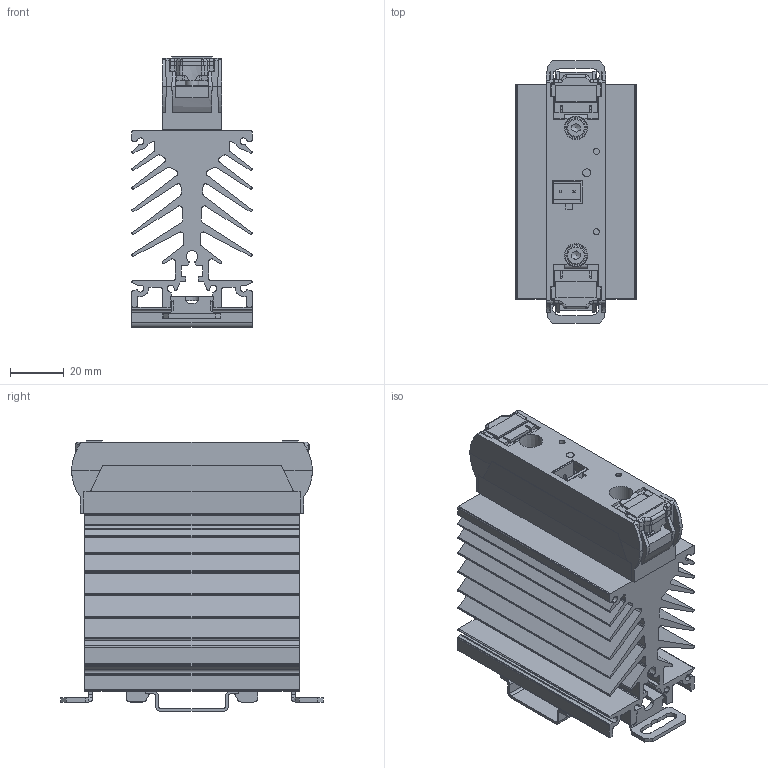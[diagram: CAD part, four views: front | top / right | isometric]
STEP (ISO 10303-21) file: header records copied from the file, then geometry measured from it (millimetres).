
FILE_DESCRIPTION((''),'2;1');
FILE_NAME('R:\Stock\3D pour clients\CELDUC references\2D3D 598 A.stp','2012-07-16T11:15:22',('Georges THOLLOT ','Tl : +33 (0)4 77 53 90 27','gthollot@celduc.com'),('Celduc r e l a i s','5, rue Ampre, BP 30004','42290 SORBIERS - France','Fax. : +33 (0)4 77 53 85 51','N siret 353 310 519 00015','ISO 9001 N QUAL/1993/1106b','www.celduc.com'),'Autodesk Inventor 2010','Autodesk Inventor 2010','');
FILE_SCHEMA(('CONFIG_CONTROL_DESIGN'));
Length unit declared in the file: millimetre
Products named in the file (6): SUM.iam (sans connecteurs); WF151200; SU and connectors.iam (déconnecté); SU; NF E 25-514 Z4 - 160 HV; ISO 4762 M4 x 20
Assembly tree (7 placements, depth 3):
  SUM.iam (sans connecteurs)
    WF151200
    SU and connectors.iam (déconnecté)
      SU
    NF E 25-514 Z4 - 160 HV  x2
    ISO 4762 M4 x 20  x2
Bounding box: 45 x 98.02 x 101.16 mm (x, y, z)
Volume: 154373.2 mm3; surface area: 88847 mm2
Topology: 6 solids, 6 shells, 1323 faces, 3713 edges, 2368 vertices
Faces by surface type: plane 704, cylinder 354, bspline 192, cone 55, torus 12, sphere 6
Full cylindrical faces by diameter (mm): 3 x1, 4 x2, 4.3 x2, 4.5 x1, 5 x2, 5.5 x1, 7 x2, 8 x2, 8.734 x2, 9.2 x2
Entity records: 47337 total; most frequent: CARTESIAN_POINT 13014, ORIENTED_EDGE 7166, DIRECTION 6462, EDGE_CURVE 3583, VECTOR 2484, LINE 2484, VERTEX_POINT 2317, AXIS2_PLACEMENT_3D 1989
